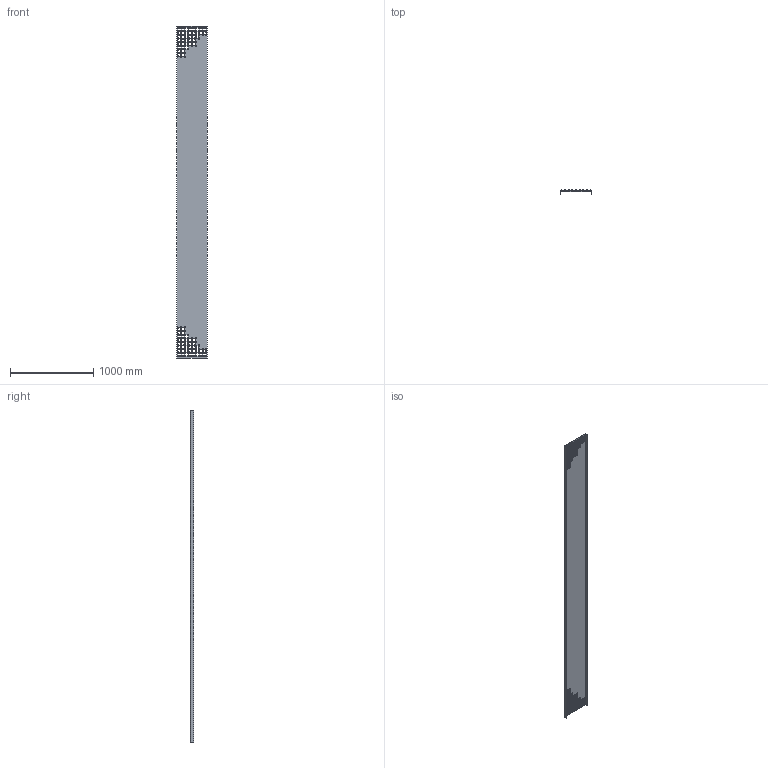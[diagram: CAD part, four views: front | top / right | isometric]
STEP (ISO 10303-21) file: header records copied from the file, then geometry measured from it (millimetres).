
FILE_DESCRIPTION (( 'STEP AP214' ), '1' );
FILE_NAME ('CUBE-Panel-B-CUBE-Oy-4000x370x42x2-st240-C050120100.STEP', '2021-03-24T07:14:47', ( '' ), ( '' ), 'SwSTEP 2.0', 'SolidWorks 2021', '' );
FILE_SCHEMA (( 'AUTOMOTIVE_DESIGN' ));
Products named in the file (1): CUBE-Panel-B-CUBE-Oy-4000x370x42x2-st240-C050120100
Bounding box: 370 x 42.79 x 4000 mm (x, y, z)
Volume: 3504558.5 mm3; surface area: 3549248.3 mm2
Topology: 1 solids, 1 shells, 8066 faces, 21560 edges, 13120 vertices
Faces by surface type: bspline 4092, cylinder 1564, plane 1514, cone 448, torus 448
Entity records: 334690 total; most frequent: CARTESIAN_POINT 172715, ORIENTED_EDGE 43120, EDGE_CURVE 21560, DIRECTION 21394, VERTEX_POINT 13120, B_SPLINE_CURVE_WITH_KNOTS 10228, AXIS2_PLACEMENT_3D 8583, EDGE_LOOP 8070
